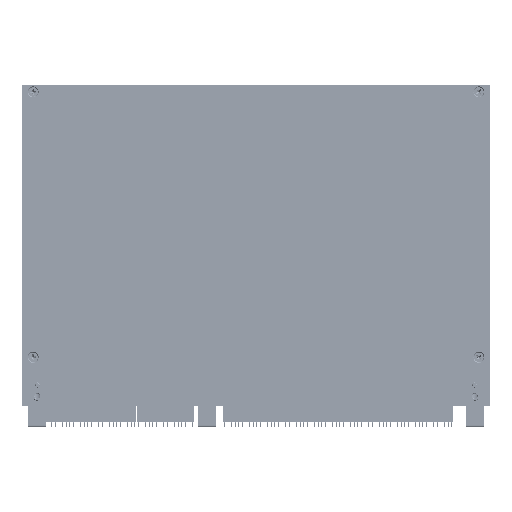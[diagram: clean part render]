
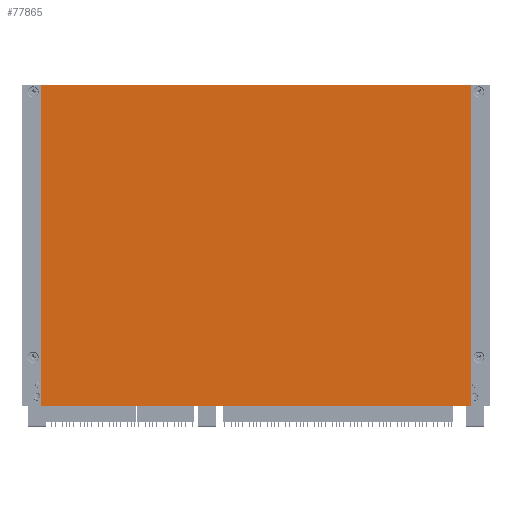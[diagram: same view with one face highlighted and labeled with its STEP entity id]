
A CAD part, left-side view. The second image highlights one B-rep face of the part: STEP entity #77865.
In plain terms, the highlighted planar face has unit normal (-1, 0, 0) as drawn and (0, 1, 0) by its records, which use the part's own axes.
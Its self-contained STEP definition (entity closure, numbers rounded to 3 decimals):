
#219 = DIRECTION ( 'NONE',  ( 0., 0., -1. ) ) ;
#15707 = CARTESIAN_POINT ( 'NONE',  ( -107.213, 2.794, 160. ) ) ;
#34730 = EDGE_CURVE ( 'NONE', #78246, #115506, #211046, .T. ) ;
#35823 = ORIENTED_EDGE ( 'NONE', *, *, #49938, .F. ) ;
#49938 = EDGE_CURVE ( 'NONE', #190350, #78246, #224512, .T. ) ;
#61009 = FACE_OUTER_BOUND ( 'NONE', #196729, .T. ) ;
#63809 = CARTESIAN_POINT ( 'NONE',  ( -107.213, 2.794, 0. ) ) ;
#71588 = VECTOR ( 'NONE', #142386, 1000. ) ;
#77865 = ADVANCED_FACE ( 'NONE', ( #61009 ), #99780, .F. ) ;
#78246 = VERTEX_POINT ( 'NONE', #15707 ) ;
#89448 = LINE ( 'NONE', #235136, #136298 ) ;
#92410 = CARTESIAN_POINT ( 'NONE',  ( -107.213, 2.794, 0. ) ) ;
#98160 = AXIS2_PLACEMENT_3D ( 'NONE', #219261, #119879, #219 ) ;
#99780 = PLANE ( 'NONE',  #98160 ) ;
#100345 = CARTESIAN_POINT ( 'NONE',  ( -107.213, 2.794, 160. ) ) ;
#115506 = VERTEX_POINT ( 'NONE', #92410 ) ;
#119879 = DIRECTION ( 'NONE',  ( 0., -1., 0. ) ) ;
#124026 = DIRECTION ( 'NONE',  ( -1., 0., 0. ) ) ;
#136298 = VECTOR ( 'NONE', #194946, 1000. ) ;
#140467 = DIRECTION ( 'NONE',  ( 0., 0., -1. ) ) ;
#142386 = DIRECTION ( 'NONE',  ( -1., 0., 0. ) ) ;
#154671 = LINE ( 'NONE', #63809, #207683 ) ;
#158044 = VECTOR ( 'NONE', #140467, 1000. ) ;
#159010 = VERTEX_POINT ( 'NONE', #212117 ) ;
#160898 = EDGE_CURVE ( 'NONE', #159010, #115506, #154671, .T. ) ;
#162774 = CARTESIAN_POINT ( 'NONE',  ( 107.213, 2.794, 160. ) ) ;
#190350 = VERTEX_POINT ( 'NONE', #162774 ) ;
#193435 = ORIENTED_EDGE ( 'NONE', *, *, #232352, .T. ) ;
#194946 = DIRECTION ( 'NONE',  ( 0., 0., -1. ) ) ;
#196729 = EDGE_LOOP ( 'NONE', ( #216179, #202809, #35823, #193435 ) ) ;
#202809 = ORIENTED_EDGE ( 'NONE', *, *, #34730, .F. ) ;
#207683 = VECTOR ( 'NONE', #124026, 1000. ) ;
#211046 = LINE ( 'NONE', #100345, #158044 ) ;
#212117 = CARTESIAN_POINT ( 'NONE',  ( 107.213, 2.794, 0. ) ) ;
#216179 = ORIENTED_EDGE ( 'NONE', *, *, #160898, .T. ) ;
#219261 = CARTESIAN_POINT ( 'NONE',  ( -107.213, 2.794, 160. ) ) ;
#224512 = LINE ( 'NONE', #242711, #71588 ) ;
#232352 = EDGE_CURVE ( 'NONE', #190350, #159010, #89448, .T. ) ;
#235136 = CARTESIAN_POINT ( 'NONE',  ( 107.213, 2.794, 160. ) ) ;
#242711 = CARTESIAN_POINT ( 'NONE',  ( -107.213, 2.794, 160. ) ) ;
